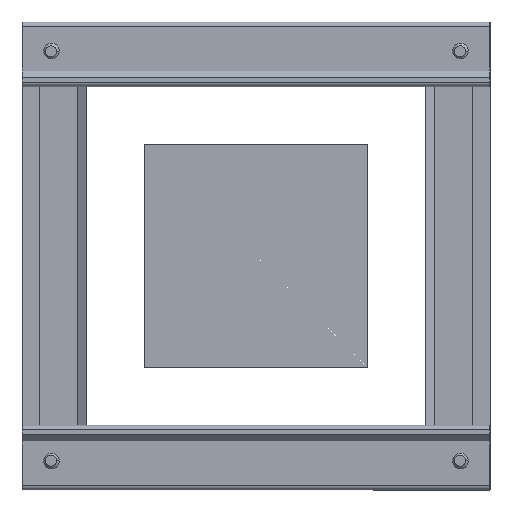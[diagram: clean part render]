
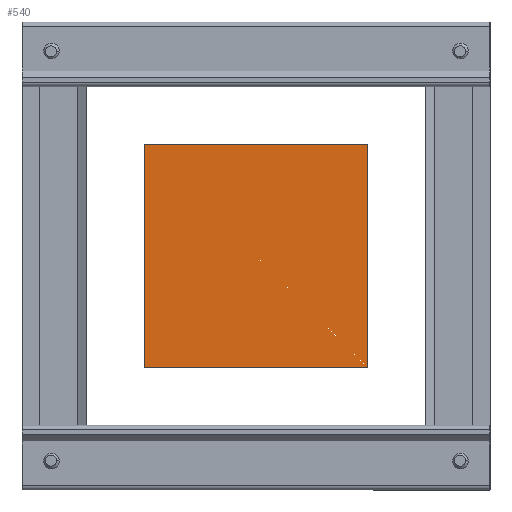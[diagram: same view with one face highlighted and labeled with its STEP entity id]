
A CAD part, front view. The second image highlights one B-rep face of the part: STEP entity #540.
In plain terms, the highlighted planar face has unit normal (0, -1, 0) as drawn and (0, 0, -1) by its records, which use the part's own axes.
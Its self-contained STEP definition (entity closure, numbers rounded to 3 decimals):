
#540 = ADVANCED_FACE ( 'NONE', ( #1672 ), #1671, .F. ) ;
#541 = EDGE_LOOP ( 'NONE', ( #542, #543, #544, #575 ) ) ;
#542 = ORIENTED_EDGE ( 'NONE', *, *, #664, .F. ) ;
#543 = ORIENTED_EDGE ( 'NONE', *, *, #552, .F. ) ;
#544 = ORIENTED_EDGE ( 'NONE', *, *, #668, .F. ) ;
#552 = EDGE_CURVE ( 'NONE', #669, #568, #1659, .T. ) ;
#559 = VERTEX_POINT ( 'NONE', #1773 ) ;
#566 = EDGE_CURVE ( 'NONE', #569, #559, #1652, .T. ) ;
#568 = VERTEX_POINT ( 'NONE', #1648 ) ;
#569 = VERTEX_POINT ( 'NONE', #1647 ) ;
#575 = ORIENTED_EDGE ( 'NONE', *, *, #566, .F. ) ;
#664 = EDGE_CURVE ( 'NONE', #568, #569, #2025, .T. ) ;
#668 = EDGE_CURVE ( 'NONE', #559, #669, #1919, .T. ) ;
#669 = VERTEX_POINT ( 'NONE', #1915 ) ;
#1647 = CARTESIAN_POINT ( 'NONE',  ( 25.08, 25.08, -2. ) ) ;
#1648 = CARTESIAN_POINT ( 'NONE',  ( 25.08, -25.08, -2. ) ) ;
#1649 = DIRECTION ( 'NONE',  ( -1., 0., 0. ) ) ;
#1650 = VECTOR ( 'NONE', #1649, 1000. ) ;
#1651 = CARTESIAN_POINT ( 'NONE',  ( -25.08, 25.08, -2. ) ) ;
#1652 = LINE ( 'NONE', #1651, #1650 ) ;
#1658 = CARTESIAN_POINT ( 'NONE',  ( -25.08, -25.08, -2. ) ) ;
#1659 = LINE ( 'NONE', #1658, #1790 ) ;
#1667 = DIRECTION ( 'NONE',  ( 1., 0., 0. ) ) ;
#1668 = DIRECTION ( 'NONE',  ( 0., 0., 1. ) ) ;
#1669 = CARTESIAN_POINT ( 'NONE',  ( 25.08, -25.08, -2. ) ) ;
#1670 = AXIS2_PLACEMENT_3D ( 'NONE', #1669, #1668, #1667 ) ;
#1671 = PLANE ( 'NONE',  #1670 ) ;
#1672 = FACE_OUTER_BOUND ( 'NONE', #541, .T. ) ;
#1773 = CARTESIAN_POINT ( 'NONE',  ( -25.08, 25.08, -2. ) ) ;
#1789 = DIRECTION ( 'NONE',  ( 1., 0., 0. ) ) ;
#1790 = VECTOR ( 'NONE', #1789, 1000. ) ;
#1915 = CARTESIAN_POINT ( 'NONE',  ( -25.08, -25.08, -2. ) ) ;
#1916 = DIRECTION ( 'NONE',  ( 0., -1., 0. ) ) ;
#1917 = VECTOR ( 'NONE', #1916, 1000. ) ;
#1918 = CARTESIAN_POINT ( 'NONE',  ( -25.08, 25.08, -2. ) ) ;
#1919 = LINE ( 'NONE', #1918, #1917 ) ;
#2022 = DIRECTION ( 'NONE',  ( 0., 1., 0. ) ) ;
#2023 = VECTOR ( 'NONE', #2022, 1000. ) ;
#2024 = CARTESIAN_POINT ( 'NONE',  ( 25.08, 25.08, -2. ) ) ;
#2025 = LINE ( 'NONE', #2024, #2023 ) ;
